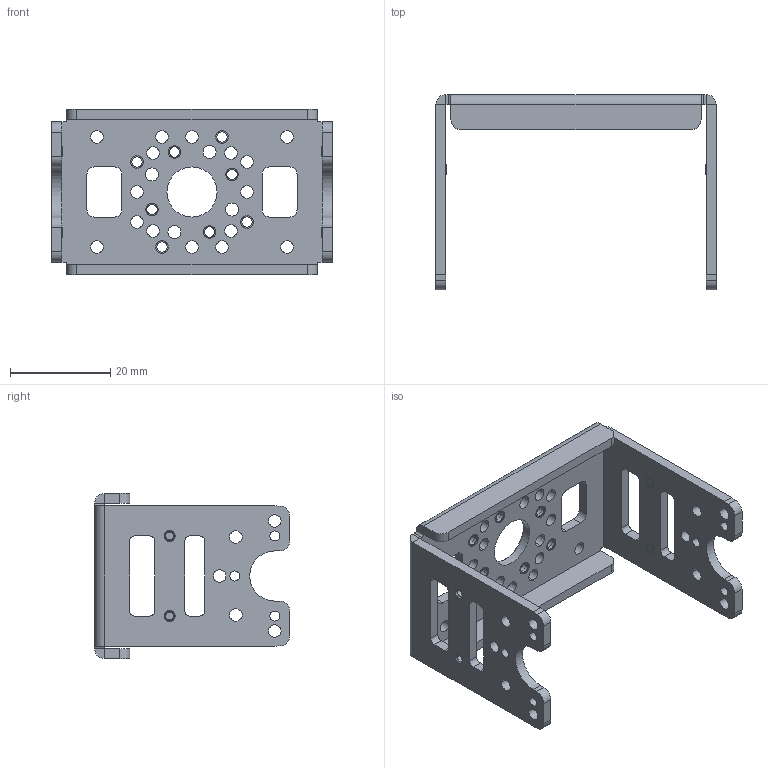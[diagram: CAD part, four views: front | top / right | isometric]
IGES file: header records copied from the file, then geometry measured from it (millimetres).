
Start section:  PTC IGES file: fr08_h101.igs
Global section: file name: fr08_h101.igs; native system: Pro/ENGINEER by Parametric Technology Corporation; preprocessor: 2009060; author: JANG WOOK; organization: Unknown; date: 20100202.163126; units: millimetre
Bounding box: 56.17 x 39.09 x 33 mm (x, y, z)
Surface area: 9797.3 mm2 (no closed solid volume)
Topology: 0 solids, 0 shells, 294 faces, 2172 edges, 2484 vertices
Faces by surface type: revolution 222, bspline 72
